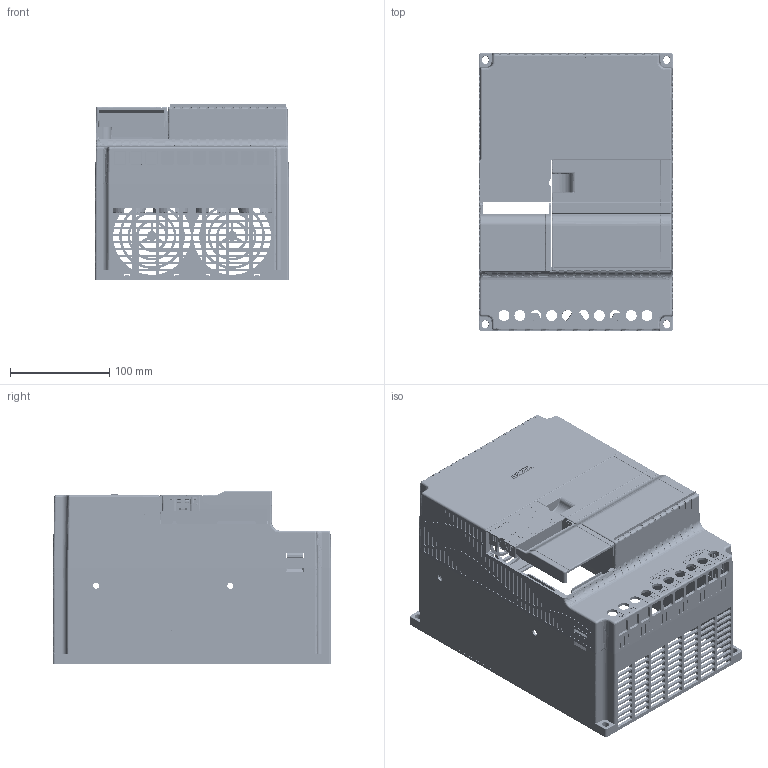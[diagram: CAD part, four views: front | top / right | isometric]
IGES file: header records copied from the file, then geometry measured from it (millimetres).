
Start section: SolidWorks IGES file using analytic representation for surfaces
Global section: file name: D:\X - Arquivos\PROEX\Empresas\P11 - METALTEX\Arquivo - Recebi por e-mail\3\3.2\IF20\IGES\z2000-15_22kw (S14).IGS; native system: SolidWorks 2012; preprocessor: SolidWorks 2012; author: Usuario; date: 190524.104459; units: millimetre
Bounding box: 195.05 x 280.05 x 176.58 mm (x, y, z)
Surface area: 538651.8 mm2 (no closed solid volume)
Topology: 0 solids, 0 shells, 6598 faces, 60761 edges, 60727 vertices
Faces by surface type: bspline 4492, revolution 2106
